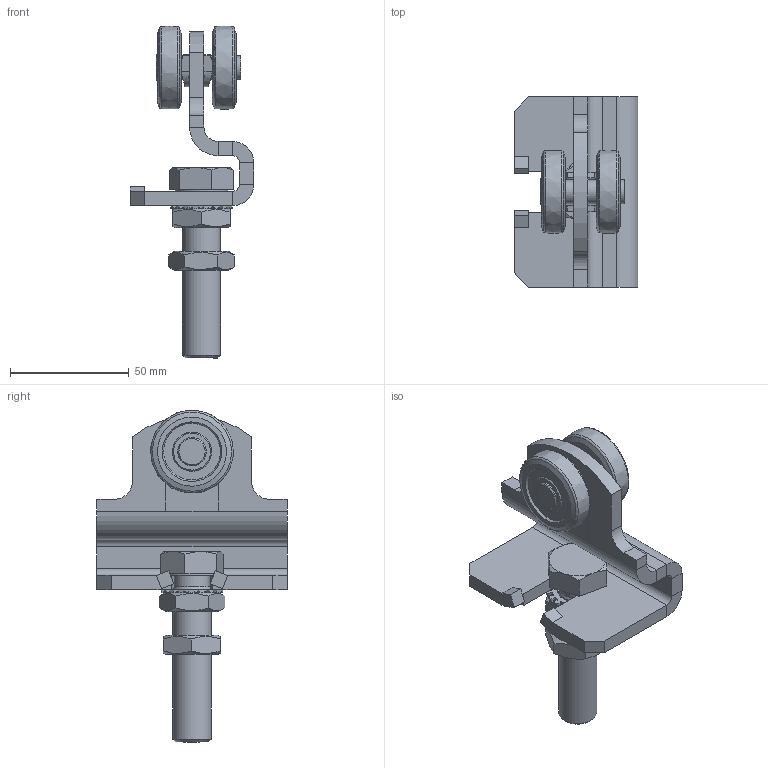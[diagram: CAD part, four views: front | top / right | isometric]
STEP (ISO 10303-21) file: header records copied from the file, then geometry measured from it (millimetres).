
FILE_DESCRIPTION(/* description */ ('Einfachrolle Nr.2 Amoniak'),/* implementation_level */ '2;1');
FILE_NAME(/* name */ 'D:\Public\STP\010336322-TP.stp',/* time_stamp */ '2020-05-13T15:01:45+02:00',/* author */ ('O. Loukota'),/* organization */ (''),/* preprocessor_version */ 'ST-DEVELOPER v17.2',/* originating_system */ 'Autodesk Inventor 2019',/* authorisation */ '');
FILE_SCHEMA (('AUTOMOTIVE_DESIGN { 1 0 10303 214 3 1 1 }'));
Length unit declared in the file: millimetre
Products named in the file (8): 010336322; 337000114; 336290020; 000303236; 000304013; DIN 6798 - A  17; DIN EN ISO 4017 - M16  x 70; DIN EN ISO 4035 - M16
Assembly tree (10 placements, depth 2):
  010336322
    337000114
    336290020  x2
    000303236  x2
    000304013
    DIN EN ISO 4035 - M16  x2
    DIN 6798 - A  17
    DIN EN ISO 4017 - M16  x 70
Bounding box: 52 x 80 x 139.5 mm (x, y, z)
Volume: 94500.8 mm3; surface area: 37527.8 mm2
Topology: 10 solids, 10 shells, 352 faces, 925 edges, 604 vertices
Faces by surface type: plane 190, cylinder 106, cone 33, bspline 18, torus 5
Full cylindrical faces by diameter (mm): 10 x3, 12 x1, 13.835 x2, 14.917 x1, 16 x1, 17 x1, 22 x1
Entity records: 10192 total; most frequent: CARTESIAN_POINT 2729, DIRECTION 1566, ORIENTED_EDGE 1494, EDGE_CURVE 747, AXIS2_PLACEMENT_3D 567, VERTEX_POINT 485, LINE 432, VECTOR 432
